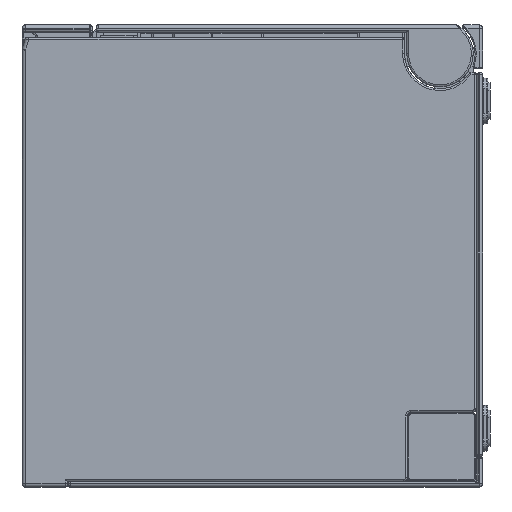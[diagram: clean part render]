
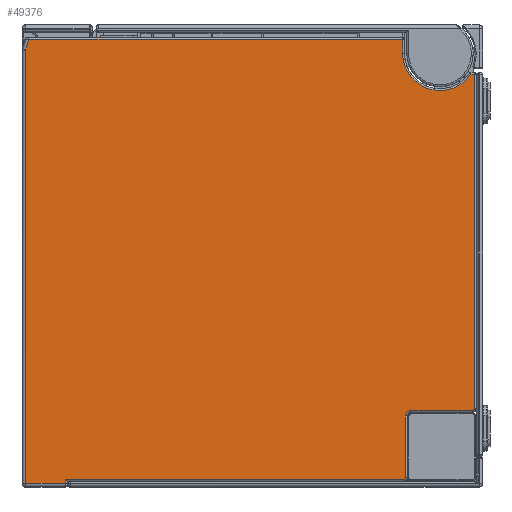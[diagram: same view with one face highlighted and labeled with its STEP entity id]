
A CAD part, left-side view. The second image highlights one B-rep face of the part: STEP entity #49376.
In plain terms, the highlighted planar face has unit normal (-1, 0, 0).
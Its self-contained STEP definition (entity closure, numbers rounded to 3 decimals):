
#33466=CARTESIAN_POINT('',(-31.5,21.7,14.452));
#37291=DIRECTION('',(0.,1.,0.));
#37292=VECTOR('',#37291,93.2);
#37293=CARTESIAN_POINT('',(-31.5,-82.5,-103.9));
#37294=LINE('',#37293,#37292);
#37295=DIRECTION('',(0.,-1.,0.));
#37296=VECTOR('',#37295,11.);
#37297=CARTESIAN_POINT('',(-31.5,21.7,-105.));
#37298=LINE('',#37297,#37296);
#37299=DIRECTION('',(0.,0.,1.));
#37300=VECTOR('',#37299,119.452);
#37301=CARTESIAN_POINT('',(-31.5,21.7,-105.));
#37302=LINE('',#37301,#37300);
#37303=DIRECTION('',(0.,0.29,-0.957));
#37304=VECTOR('',#37303,3.081);
#37305=CARTESIAN_POINT('',(-31.5,20.807,17.4));
#37306=LINE('',#37305,#37304);
#37307=DIRECTION('',(0.,1.,0.));
#37308=VECTOR('',#37307,103.007);
#37309=CARTESIAN_POINT('',(-31.5,-82.2,17.4));
#37310=LINE('',#37309,#37308);
#37311=DIRECTION('',(0.,0.,1.));
#37312=VECTOR('',#37311,3.8);
#37313=CARTESIAN_POINT('',(-31.5,-82.2,13.6));
#37314=LINE('',#37313,#37312);
#37315=CARTESIAN_POINT('',(-31.5,-92.5,13.6));
#37316=DIRECTION('',(1.,0.,0.));
#37317=DIRECTION('',(0.,-0.826,-0.563));
#37318=AXIS2_PLACEMENT_3D('',#37315,#37316,#37317);
#37320=DIRECTION('',(0.,1.,0.));
#37321=VECTOR('',#37320,0.988);
#37322=CARTESIAN_POINT('',(-31.5,-102.,7.8));
#37323=LINE('',#37322,#37321);
#37324=DIRECTION('',(0.,0.,-1.));
#37325=VECTOR('',#37324,92.2);
#37326=CARTESIAN_POINT('',(-31.5,-102.,7.8));
#37327=LINE('',#37326,#37325);
#37328=CARTESIAN_POINT('',(-31.5,-101.5,-84.4));
#37329=DIRECTION('',(1.,0.,0.));
#37330=DIRECTION('',(0.,-1.,0.));
#37331=AXIS2_PLACEMENT_3D('',#37328,#37329,#37330);
#37333=DIRECTION('',(0.,1.,0.));
#37334=VECTOR('',#37333,17.);
#37335=CARTESIAN_POINT('',(-31.5,-101.5,-84.9));
#37336=LINE('',#37335,#37334);
#37337=CARTESIAN_POINT('',(-31.5,-84.5,-86.4));
#37338=DIRECTION('',(-1.,0.,0.));
#37339=DIRECTION('',(0.,0.,1.));
#37340=AXIS2_PLACEMENT_3D('',#37337,#37338,#37339);
#37342=DIRECTION('',(0.,0.,-1.));
#37343=VECTOR('',#37342,17.);
#37344=CARTESIAN_POINT('',(-31.5,-83.,-86.4));
#37345=LINE('',#37344,#37343);
#37346=CARTESIAN_POINT('',(-31.5,-82.5,-103.4));
#37347=DIRECTION('',(1.,0.,0.));
#37348=DIRECTION('',(0.,-1.,0.));
#37349=AXIS2_PLACEMENT_3D('',#37346,#37347,#37348);
#37351=DIRECTION('',(0.,0.,1.));
#37352=VECTOR('',#37351,1.1);
#37353=CARTESIAN_POINT('',(-31.5,10.7,-105.));
#37354=LINE('',#37353,#37352);
#42539=CARTESIAN_POINT('',(-31.5,-82.5,-103.9));
#42540=CARTESIAN_POINT('',(-31.5,10.7,-103.9));
#42541=VERTEX_POINT('',#42539);
#42542=VERTEX_POINT('',#42540);
#42549=CARTESIAN_POINT('',(-31.5,10.7,-105.));
#42550=VERTEX_POINT('',#42549);
#43195=CARTESIAN_POINT('',(-31.5,-82.2,17.4));
#43196=CARTESIAN_POINT('',(-31.5,20.807,17.4));
#43197=VERTEX_POINT('',#43195);
#43198=VERTEX_POINT('',#43196);
#43201=CARTESIAN_POINT('',(-31.5,-82.2,13.6));
#43202=VERTEX_POINT('',#43201);
#43205=CARTESIAN_POINT('',(-31.5,-101.012,7.8));
#43206=VERTEX_POINT('',#43205);
#43409=CARTESIAN_POINT('',(-31.5,-102.,7.8));
#43410=VERTEX_POINT('',#43409);
#43413=CARTESIAN_POINT('',(-31.5,-102.,-84.4));
#43414=VERTEX_POINT('',#43413);
#43417=CARTESIAN_POINT('',(-31.5,-101.5,-84.9));
#43418=VERTEX_POINT('',#43417);
#43421=CARTESIAN_POINT('',(-31.5,-84.5,-84.9));
#43422=VERTEX_POINT('',#43421);
#43425=CARTESIAN_POINT('',(-31.5,-83.,-86.4));
#43426=VERTEX_POINT('',#43425);
#43429=CARTESIAN_POINT('',(-31.5,-83.,-103.4));
#43430=VERTEX_POINT('',#43429);
#43465=CARTESIAN_POINT('',(-31.5,21.7,-105.));
#43466=VERTEX_POINT('',#43465);
#43938=VERTEX_POINT('',#33466);
#49342=CARTESIAN_POINT('',(-31.5,-102.5,-106.));
#49343=DIRECTION('',(-1.,0.,0.));
#49344=DIRECTION('',(0.,0.,1.));
#49345=AXIS2_PLACEMENT_3D('',#49342,#49343,#49344);
#49346=PLANE('',#49345);
#49347=ORIENTED_EDGE('',*,*,#49332,.T.);
#49349=ORIENTED_EDGE('',*,*,#49348,.F.);
#49351=ORIENTED_EDGE('',*,*,#49350,.F.);
#49352=ORIENTED_EDGE('',*,*,#44917,.T.);
#49354=ORIENTED_EDGE('',*,*,#49353,.F.);
#49356=ORIENTED_EDGE('',*,*,#49355,.F.);
#49358=ORIENTED_EDGE('',*,*,#49357,.F.);
#49360=ORIENTED_EDGE('',*,*,#49359,.F.);
#49362=ORIENTED_EDGE('',*,*,#49361,.F.);
#49364=ORIENTED_EDGE('',*,*,#49363,.T.);
#49366=ORIENTED_EDGE('',*,*,#49365,.T.);
#49368=ORIENTED_EDGE('',*,*,#49367,.T.);
#49370=ORIENTED_EDGE('',*,*,#49369,.T.);
#49372=ORIENTED_EDGE('',*,*,#49371,.T.);
#49373=ORIENTED_EDGE('',*,*,#49320,.T.);
#49374=EDGE_LOOP('',(#49347,#49349,#49351,#49352,#49354,#49356,#49358,#49360,
#49362,#49364,#49366,#49368,#49370,#49372,#49373));
#49375=FACE_OUTER_BOUND('',#49374,.F.);
#37319=CIRCLE('',#37318,10.3);
#37332=CIRCLE('',#37331,0.5);
#37341=CIRCLE('',#37340,1.5);
#37350=CIRCLE('',#37349,0.5);
#44917=EDGE_CURVE('',#43466,#43938,#37302,.T.);
#49320=EDGE_CURVE('',#43430,#42541,#37350,.T.);
#49332=EDGE_CURVE('',#42541,#42542,#37294,.T.);
#49348=EDGE_CURVE('',#42550,#42542,#37354,.T.);
#49350=EDGE_CURVE('',#43466,#42550,#37298,.T.);
#49353=EDGE_CURVE('',#43198,#43938,#37306,.T.);
#49355=EDGE_CURVE('',#43197,#43198,#37310,.T.);
#49357=EDGE_CURVE('',#43202,#43197,#37314,.T.);
#49359=EDGE_CURVE('',#43206,#43202,#37319,.T.);
#49361=EDGE_CURVE('',#43410,#43206,#37323,.T.);
#49363=EDGE_CURVE('',#43410,#43414,#37327,.T.);
#49365=EDGE_CURVE('',#43414,#43418,#37332,.T.);
#49367=EDGE_CURVE('',#43418,#43422,#37336,.T.);
#49369=EDGE_CURVE('',#43422,#43426,#37341,.T.);
#49371=EDGE_CURVE('',#43426,#43430,#37345,.T.);
#49376=ADVANCED_FACE('',(#49375),#49346,.T.);
